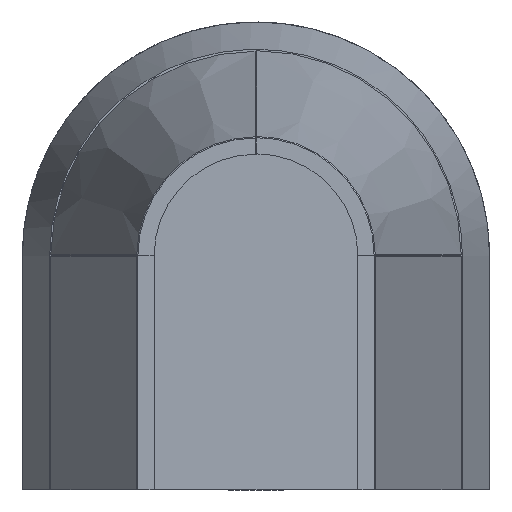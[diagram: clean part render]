
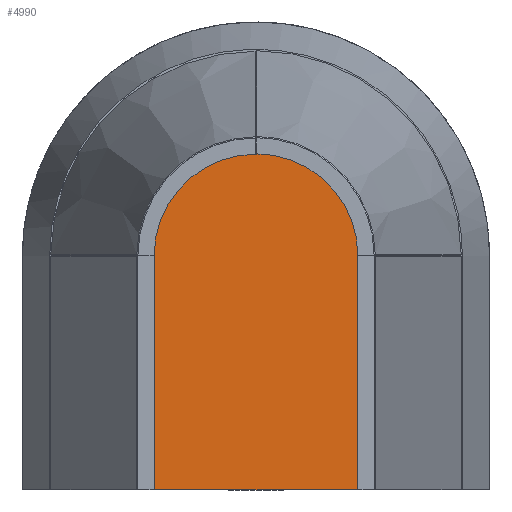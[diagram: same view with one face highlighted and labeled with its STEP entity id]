
A CAD part, front view. The second image highlights one B-rep face of the part: STEP entity #4990.
In plain terms, the highlighted planar face has unit normal (0, -1, 0).
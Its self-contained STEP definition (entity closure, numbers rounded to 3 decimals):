
#766 = CIRCLE ( 'NONE', #14002, 110.17 ) ;
#789 = PLANE ( 'NONE',  #20279 ) ;
#1065 = ORIENTED_EDGE ( 'NONE', *, *, #18789, .F. ) ;
#1612 = EDGE_CURVE ( 'NONE', #6830, #3520, #22092, .T. ) ;
#1650 = EDGE_CURVE ( 'NONE', #3210, #6830, #6131, .T. ) ;
#2437 = DIRECTION ( 'NONE',  ( 0., 1., 0. ) ) ;
#3210 = VERTEX_POINT ( 'NONE', #14244 ) ;
#3520 = VERTEX_POINT ( 'NONE', #17068 ) ;
#4239 = CARTESIAN_POINT ( 'NONE',  ( 110.17, -492., 0. ) ) ;
#4990 = ADVANCED_FACE ( 'NONE', ( #11426 ), #789, .F. ) ;
#5893 = DIRECTION ( 'NONE',  ( 0., 0., 1. ) ) ;
#6108 = DIRECTION ( 'NONE',  ( 0., 0., 1. ) ) ;
#6131 = LINE ( 'NONE', #18894, #16801 ) ;
#6469 = CARTESIAN_POINT ( 'NONE',  ( -110.17, -492., 250. ) ) ;
#6568 = CARTESIAN_POINT ( 'NONE',  ( 0., -492., 250. ) ) ;
#6773 = ORIENTED_EDGE ( 'NONE', *, *, #1650, .T. ) ;
#6830 = VERTEX_POINT ( 'NONE', #20716 ) ;
#7692 = CARTESIAN_POINT ( 'NONE',  ( -110.17, -492., 0. ) ) ;
#8573 = DIRECTION ( 'NONE',  ( 0., -1., 0. ) ) ;
#10404 = EDGE_LOOP ( 'NONE', ( #6773, #13820, #10808, #1065 ) ) ;
#10808 = ORIENTED_EDGE ( 'NONE', *, *, #15365, .T. ) ;
#11426 = FACE_OUTER_BOUND ( 'NONE', #10404, .T. ) ;
#12356 = DIRECTION ( 'NONE',  ( 0., 0., -1. ) ) ;
#12553 = VECTOR ( 'NONE', #12909, 1000. ) ;
#12909 = DIRECTION ( 'NONE',  ( 0., 0., 1. ) ) ;
#13820 = ORIENTED_EDGE ( 'NONE', *, *, #1612, .T. ) ;
#14002 = AXIS2_PLACEMENT_3D ( 'NONE', #6568, #8573, #12356 ) ;
#14244 = CARTESIAN_POINT ( 'NONE',  ( -110.17, -492., 0. ) ) ;
#14921 = VECTOR ( 'NONE', #5893, 1000. ) ;
#15365 = EDGE_CURVE ( 'NONE', #3520, #22001, #766, .T. ) ;
#16801 = VECTOR ( 'NONE', #20551, 1000. ) ;
#17068 = CARTESIAN_POINT ( 'NONE',  ( 110.17, -492., 250. ) ) ;
#17360 = LINE ( 'NONE', #7692, #12553 ) ;
#18789 = EDGE_CURVE ( 'NONE', #3210, #22001, #17360, .T. ) ;
#18894 = CARTESIAN_POINT ( 'NONE',  ( 0., -492., 0. ) ) ;
#20279 = AXIS2_PLACEMENT_3D ( 'NONE', #21847, #2437, #6108 ) ;
#20551 = DIRECTION ( 'NONE',  ( 1., 0., 0. ) ) ;
#20716 = CARTESIAN_POINT ( 'NONE',  ( 110.17, -492., 0. ) ) ;
#21847 = CARTESIAN_POINT ( 'NONE',  ( -110.17, -492., 0. ) ) ;
#22001 = VERTEX_POINT ( 'NONE', #6469 ) ;
#22092 = LINE ( 'NONE', #4239, #14921 ) ;
